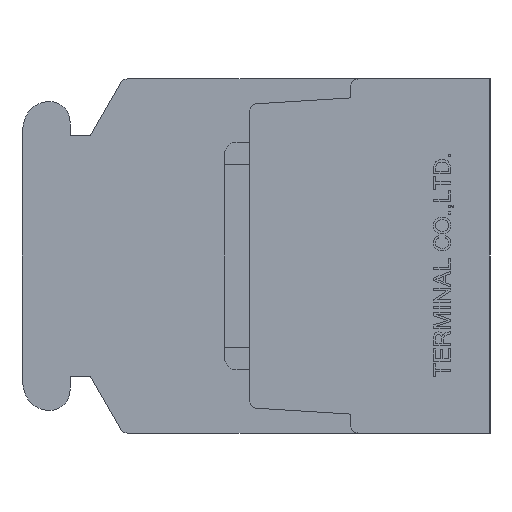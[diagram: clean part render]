
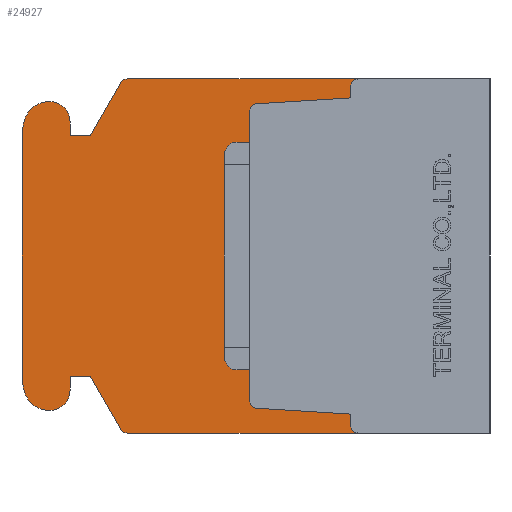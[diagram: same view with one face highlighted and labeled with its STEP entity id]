
A CAD part, left-side view. The second image highlights one B-rep face of the part: STEP entity #24927.
In plain terms, the highlighted planar face has unit normal (-1, 0, 0).
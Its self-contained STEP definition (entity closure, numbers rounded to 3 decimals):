
#490=CIRCLE('',#25364,0.3);
#491=CIRCLE('',#25368,0.3);
#492=CIRCLE('',#25370,0.3);
#493=CIRCLE('',#25374,0.3);
#959=CIRCLE('',#26757,0.3);
#960=CIRCLE('',#26758,0.8);
#961=CIRCLE('',#26759,1.);
#962=CIRCLE('',#26760,2.);
#963=CIRCLE('',#26761,2.);
#964=CIRCLE('',#26762,1.);
#965=CIRCLE('',#26763,0.8);
#966=CIRCLE('',#26764,0.3);
#1364=VERTEX_POINT('',#32517);
#1365=VERTEX_POINT('',#32518);
#1718=VERTEX_POINT('',#34039);
#1719=VERTEX_POINT('',#34043);
#1720=VERTEX_POINT('',#34047);
#1721=VERTEX_POINT('',#34051);
#1722=VERTEX_POINT('',#34055);
#1723=VERTEX_POINT('',#34056);
#1724=VERTEX_POINT('',#34061);
#1725=VERTEX_POINT('',#34065);
#3176=VERTEX_POINT('',#38329);
#3195=VERTEX_POINT('',#38404);
#3465=VERTEX_POINT('',#39350);
#3466=VERTEX_POINT('',#39352);
#3467=VERTEX_POINT('',#39354);
#3468=VERTEX_POINT('',#39356);
#3469=VERTEX_POINT('',#39358);
#3470=VERTEX_POINT('',#39360);
#3471=VERTEX_POINT('',#39362);
#3472=VERTEX_POINT('',#39364);
#3473=VERTEX_POINT('',#39366);
#3474=VERTEX_POINT('',#39368);
#3475=VERTEX_POINT('',#39370);
#3476=VERTEX_POINT('',#39372);
#3477=VERTEX_POINT('',#39374);
#3478=VERTEX_POINT('',#39376);
#3479=VERTEX_POINT('',#39378);
#3480=VERTEX_POINT('',#39380);
#3912=VECTOR('',#27050,1.);
#4321=VECTOR('',#27606,1.);
#4323=VECTOR('',#27609,1.);
#4328=VECTOR('',#27623,1.);
#4330=VECTOR('',#27626,1.);
#5780=VECTOR('',#30813,1.);
#5809=VECTOR('',#30884,1.);
#6171=VECTOR('',#31616,1.);
#6172=VECTOR('',#31617,1.);
#6173=VECTOR('',#31618,1.);
#6174=VECTOR('',#31621,1.);
#6175=VECTOR('',#31626,1.);
#6176=VECTOR('',#31631,1.);
#6177=VECTOR('',#31634,1.);
#6178=VECTOR('',#31635,1.);
#6179=VECTOR('',#31636,1.);
#6680=LINE('',#32516,#3912);
#7089=LINE('',#34042,#4321);
#7091=LINE('',#34046,#4323);
#7096=LINE('',#34060,#4328);
#7098=LINE('',#34064,#4330);
#8548=LINE('',#38330,#5780);
#8577=LINE('',#38403,#5809);
#8939=LINE('',#39351,#6171);
#8940=LINE('',#39353,#6172);
#8941=LINE('',#39355,#6173);
#8942=LINE('',#39359,#6174);
#8943=LINE('',#39365,#6175);
#8944=LINE('',#39371,#6176);
#8945=LINE('',#39375,#6177);
#8946=LINE('',#39377,#6178);
#8947=LINE('',#39379,#6179);
#9448=EDGE_CURVE('',#1364,#1365,#6680,.T.);
#9966=EDGE_CURVE('',#1718,#1364,#490,.T.);
#9968=EDGE_CURVE('',#1719,#1718,#7089,.T.);
#9970=EDGE_CURVE('',#1720,#1719,#7091,.T.);
#9972=EDGE_CURVE('',#1721,#1720,#491,.T.);
#9974=EDGE_CURVE('',#1722,#1723,#492,.T.);
#9977=EDGE_CURVE('',#1724,#1722,#7096,.T.);
#9979=EDGE_CURVE('',#1725,#1724,#7098,.T.);
#9981=EDGE_CURVE('',#1365,#1725,#493,.T.);
#12017=EDGE_CURVE('',#3176,#1723,#8548,.T.);
#12054=EDGE_CURVE('',#1721,#3195,#8577,.T.);
#12590=EDGE_CURVE('',#3465,#3176,#959,.T.);
#12591=EDGE_CURVE('',#3466,#3465,#8939,.T.);
#12592=EDGE_CURVE('',#3467,#3466,#8940,.T.);
#12593=EDGE_CURVE('',#3468,#3467,#8941,.T.);
#12594=EDGE_CURVE('',#3469,#3468,#960,.T.);
#12595=EDGE_CURVE('',#3470,#3469,#8942,.T.);
#12596=EDGE_CURVE('',#3471,#3470,#961,.T.);
#12597=EDGE_CURVE('',#3472,#3471,#962,.T.);
#12598=EDGE_CURVE('',#3473,#3472,#8943,.T.);
#12599=EDGE_CURVE('',#3474,#3473,#963,.T.);
#12600=EDGE_CURVE('',#3475,#3474,#964,.T.);
#12601=EDGE_CURVE('',#3476,#3475,#8944,.T.);
#12602=EDGE_CURVE('',#3477,#3476,#965,.T.);
#12603=EDGE_CURVE('',#3478,#3477,#8945,.T.);
#12604=EDGE_CURVE('',#3479,#3478,#8946,.T.);
#12605=EDGE_CURVE('',#3480,#3479,#8947,.T.);
#12606=EDGE_CURVE('',#3195,#3480,#966,.T.);
#19482=ORIENTED_EDGE('',*,*,#9974,.T.);
#19483=ORIENTED_EDGE('',*,*,#12017,.F.);
#19484=ORIENTED_EDGE('',*,*,#12590,.F.);
#19485=ORIENTED_EDGE('',*,*,#12591,.F.);
#19486=ORIENTED_EDGE('',*,*,#12592,.F.);
#19487=ORIENTED_EDGE('',*,*,#12593,.F.);
#19488=ORIENTED_EDGE('',*,*,#12594,.F.);
#19489=ORIENTED_EDGE('',*,*,#12595,.F.);
#19490=ORIENTED_EDGE('',*,*,#12596,.F.);
#19491=ORIENTED_EDGE('',*,*,#12597,.F.);
#19492=ORIENTED_EDGE('',*,*,#12598,.F.);
#19493=ORIENTED_EDGE('',*,*,#12599,.F.);
#19494=ORIENTED_EDGE('',*,*,#12600,.F.);
#19495=ORIENTED_EDGE('',*,*,#12601,.F.);
#19496=ORIENTED_EDGE('',*,*,#12602,.F.);
#19497=ORIENTED_EDGE('',*,*,#12603,.F.);
#19498=ORIENTED_EDGE('',*,*,#12604,.F.);
#19499=ORIENTED_EDGE('',*,*,#12605,.F.);
#19500=ORIENTED_EDGE('',*,*,#12606,.F.);
#19501=ORIENTED_EDGE('',*,*,#12054,.F.);
#19502=ORIENTED_EDGE('',*,*,#9972,.T.);
#19503=ORIENTED_EDGE('',*,*,#9970,.T.);
#19504=ORIENTED_EDGE('',*,*,#9968,.T.);
#19505=ORIENTED_EDGE('',*,*,#9966,.T.);
#19506=ORIENTED_EDGE('',*,*,#9448,.T.);
#19507=ORIENTED_EDGE('',*,*,#9981,.T.);
#19508=ORIENTED_EDGE('',*,*,#9979,.T.);
#19509=ORIENTED_EDGE('',*,*,#9977,.T.);
#22047=EDGE_LOOP('',(#19482,#19483,#19484,#19485,#19486,#19487,#19488,#19489,
#19490,#19491,#19492,#19493,#19494,#19495,#19496,#19497,#19498,#19499,#19500,
#19501,#19502,#19503,#19504,#19505,#19506,#19507,#19508,#19509));
#23531=FACE_BOUND('',#22047,.T.);
#24927=ADVANCED_FACE('',(#23531),#41958,.F.);
#25364=AXIS2_PLACEMENT_3D('',#34038,#27602,#27603);
#25368=AXIS2_PLACEMENT_3D('',#34050,#27613,#27614);
#25370=AXIS2_PLACEMENT_3D('',#34054,#27618,#27619);
#25374=AXIS2_PLACEMENT_3D('',#34068,#27630,#27631);
#26756=AXIS2_PLACEMENT_3D('',#39348,#31613,$);
#26757=AXIS2_PLACEMENT_3D('',#39349,#31614,#31615);
#26758=AXIS2_PLACEMENT_3D('',#39357,#31619,#31620);
#26759=AXIS2_PLACEMENT_3D('',#39361,#31622,#31623);
#26760=AXIS2_PLACEMENT_3D('',#39363,#31624,#31625);
#26761=AXIS2_PLACEMENT_3D('',#39367,#31627,#31628);
#26762=AXIS2_PLACEMENT_3D('',#39369,#31629,#31630);
#26763=AXIS2_PLACEMENT_3D('',#39373,#31632,#31633);
#26764=AXIS2_PLACEMENT_3D('',#39381,#31637,#31638);
#27050=DIRECTION('',(0.,0.,1.));
#27602=DIRECTION('',(1.,0.,0.));
#27603=DIRECTION('',(0.,0.,-0.3));
#27606=DIRECTION('',(0.,0.998,0.062));
#27609=DIRECTION('',(0.,0.,1.));
#27613=DIRECTION('',(1.,0.,0.));
#27614=DIRECTION('',(0.,0.,-0.3));
#27618=DIRECTION('',(1.,0.,0.));
#27619=DIRECTION('',(0.,0.,-0.3));
#27623=DIRECTION('',(0.,0.,1.));
#27626=DIRECTION('',(0.,-0.998,0.062));
#27630=DIRECTION('',(1.,0.,0.));
#27631=DIRECTION('',(0.,0.,-0.3));
#30813=DIRECTION('',(0.,-1.,0.));
#30884=DIRECTION('',(0.,1.,0.));
#31613=DIRECTION('',(1.,0.,0.));
#31614=DIRECTION('',(1.,0.,0.));
#31615=DIRECTION('',(0.,0.,-0.3));
#31616=DIRECTION('',(0.,-0.5,0.866));
#31617=DIRECTION('',(0.,-1.,0.));
#31618=DIRECTION('',(0.,0.,-1.));
#31619=DIRECTION('',(1.,0.,0.));
#31620=DIRECTION('',(0.,0.,-0.8));
#31621=DIRECTION('',(0.,-1.,0.));
#31622=DIRECTION('',(1.,0.,0.));
#31623=DIRECTION('',(0.,0.,-1.));
#31624=DIRECTION('',(1.,0.,0.));
#31625=DIRECTION('',(0.,0.,-2.));
#31626=DIRECTION('',(0.,0.,1.));
#31627=DIRECTION('',(1.,0.,0.));
#31628=DIRECTION('',(0.,0.,-2.));
#31629=DIRECTION('',(1.,0.,0.));
#31630=DIRECTION('',(0.,0.,-1.));
#31631=DIRECTION('',(0.,1.,0.));
#31632=DIRECTION('',(1.,0.,0.));
#31633=DIRECTION('',(0.,0.,-0.8));
#31634=DIRECTION('',(0.,0.,-1.));
#31635=DIRECTION('',(0.,1.,0.));
#31636=DIRECTION('',(0.,0.5,0.866));
#31637=DIRECTION('',(1.,0.,0.));
#31638=DIRECTION('',(0.,0.,-0.3));
#32516=CARTESIAN_POINT('',(8.15,9.5,0.));
#32517=CARTESIAN_POINT('',(8.15,9.5,-5.718));
#32518=CARTESIAN_POINT('',(8.15,9.5,5.718));
#34038=CARTESIAN_POINT('',(8.15,9.2,-5.718));
#34039=CARTESIAN_POINT('',(8.15,9.219,-6.018));
#34042=CARTESIAN_POINT('',(8.15,8.522,-6.061));
#34043=CARTESIAN_POINT('',(8.15,5.5,-6.25));
#34046=CARTESIAN_POINT('',(8.15,5.5,-3.237));
#34047=CARTESIAN_POINT('',(8.15,5.5,-6.7));
#34050=CARTESIAN_POINT('',(8.15,5.2,-6.7));
#34051=CARTESIAN_POINT('',(8.15,5.2,-7.));
#34054=CARTESIAN_POINT('',(8.15,5.2,6.7));
#34055=CARTESIAN_POINT('',(8.15,5.5,6.7));
#34056=CARTESIAN_POINT('',(8.15,5.2,7.));
#34060=CARTESIAN_POINT('',(8.15,5.5,3.238));
#34061=CARTESIAN_POINT('',(8.15,5.5,6.25));
#34064=CARTESIAN_POINT('',(8.15,8.522,6.061));
#34065=CARTESIAN_POINT('',(8.15,9.219,6.018));
#34068=CARTESIAN_POINT('',(8.15,9.2,5.718));
#38329=CARTESIAN_POINT('',(8.15,14.327,7.));
#38330=CARTESIAN_POINT('',(8.15,14.327,7.));
#38403=CARTESIAN_POINT('',(8.15,0.,-7.));
#38404=CARTESIAN_POINT('',(8.15,14.327,-7.));
#39348=CARTESIAN_POINT('',(8.15,9.311,0.));
#39349=CARTESIAN_POINT('',(8.15,14.327,6.7));
#39350=CARTESIAN_POINT('',(8.15,14.587,6.85));
#39351=CARTESIAN_POINT('',(8.15,15.8,4.75));
#39352=CARTESIAN_POINT('',(8.15,15.8,4.75));
#39353=CARTESIAN_POINT('',(8.15,16.6,4.75));
#39354=CARTESIAN_POINT('',(8.15,16.6,4.75));
#39355=CARTESIAN_POINT('',(8.15,16.6,5.3));
#39356=CARTESIAN_POINT('',(8.15,16.6,5.3));
#39357=CARTESIAN_POINT('',(8.15,17.4,5.3));
#39358=CARTESIAN_POINT('',(8.15,17.4,6.1));
#39359=CARTESIAN_POINT('',(8.15,17.437,6.1));
#39360=CARTESIAN_POINT('',(8.15,17.437,6.1));
#39361=CARTESIAN_POINT('',(8.15,17.437,5.1));
#39362=CARTESIAN_POINT('',(8.15,18.373,5.45));
#39363=CARTESIAN_POINT('',(8.15,16.5,4.75));
#39364=CARTESIAN_POINT('',(8.15,18.5,4.75));
#39365=CARTESIAN_POINT('',(8.15,18.5,-4.75));
#39366=CARTESIAN_POINT('',(8.15,18.5,-4.75));
#39367=CARTESIAN_POINT('',(8.15,16.5,-4.75));
#39368=CARTESIAN_POINT('',(8.15,18.373,-5.45));
#39369=CARTESIAN_POINT('',(8.15,17.437,-5.1));
#39370=CARTESIAN_POINT('',(8.15,17.437,-6.1));
#39371=CARTESIAN_POINT('',(8.15,17.4,-6.1));
#39372=CARTESIAN_POINT('',(8.15,17.4,-6.1));
#39373=CARTESIAN_POINT('',(8.15,17.4,-5.3));
#39374=CARTESIAN_POINT('',(8.15,16.6,-5.3));
#39375=CARTESIAN_POINT('',(8.15,16.6,-4.75));
#39376=CARTESIAN_POINT('',(8.15,16.6,-4.75));
#39377=CARTESIAN_POINT('',(8.15,15.8,-4.75));
#39378=CARTESIAN_POINT('',(8.15,15.8,-4.75));
#39379=CARTESIAN_POINT('',(8.15,14.587,-6.85));
#39380=CARTESIAN_POINT('',(8.15,14.587,-6.85));
#39381=CARTESIAN_POINT('',(8.15,14.327,-6.7));
#41958=PLANE('',#26756);
